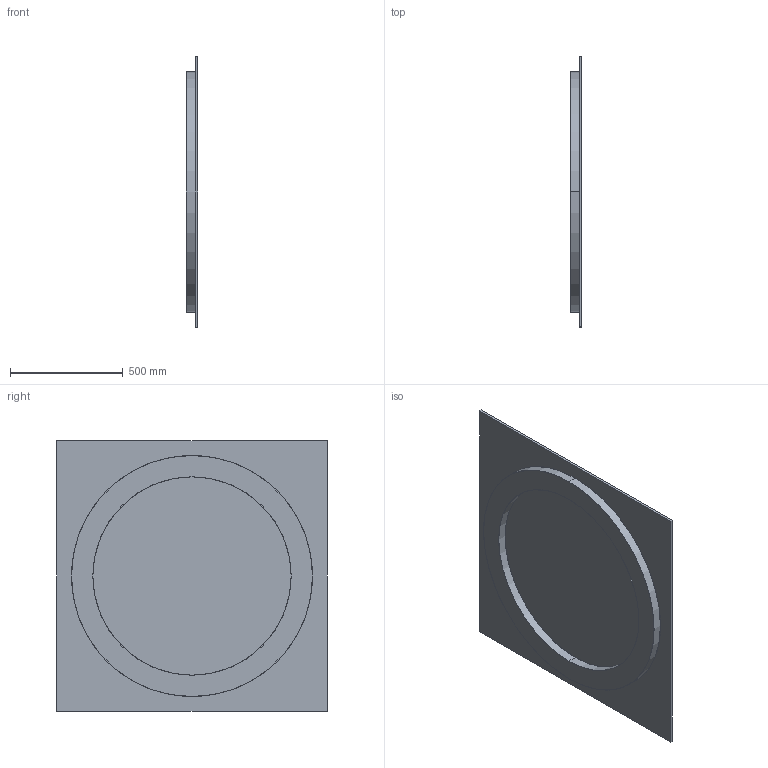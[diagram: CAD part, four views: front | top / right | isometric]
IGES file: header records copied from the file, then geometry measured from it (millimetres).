
Start section: SolidWorks IGES file using analytic representation for surfaces
Global section: file name: C:\Users\Stagiaire\Desktop\Rendu 3D\Micro BLADE circle\Micro BLADE circle 100\767_Micro_BLADE_circle_100.IGS; native system: SolidWorks 2014; preprocessor: SolidWorks 2014; author: Stagiaire; date: 140915.112858; units: millimetre
Bounding box: 50 x 1200 x 1200 mm (x, y, z)
Surface area: 3980390.6 mm2 (no closed solid volume)
Topology: 0 solids, 0 shells, 46 faces, 928 edges, 928 vertices
Faces by surface type: revolution 34, bspline 12
